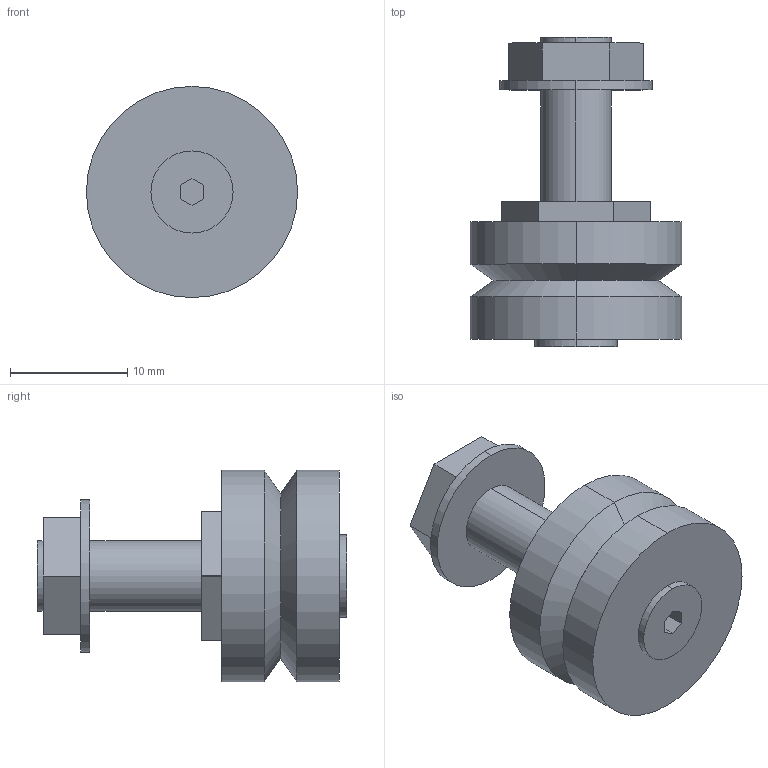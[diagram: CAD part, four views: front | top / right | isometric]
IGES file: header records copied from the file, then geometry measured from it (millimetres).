
Start section: 3D InterOp IGES (Version 21 0 1), Spatial Corp. Copyright (c) 1999-2007.
Global section: file name: RLJ18CNS.igs; native system: Spatial Corp.; preprocessor: 3D InterOp GENERIC/IGES 3.0; author: Noname; organization: Noname; date: 20220627.163722; units: millimetre
Bounding box: 18 x 26.4 x 18 mm (x, y, z)
Surface area: 1797.3 mm2 (no closed solid volume)
Topology: 0 solids, 0 shells, 43 faces, 192 edges, 192 vertices
Faces by surface type: extrusion 27, revolution 16
